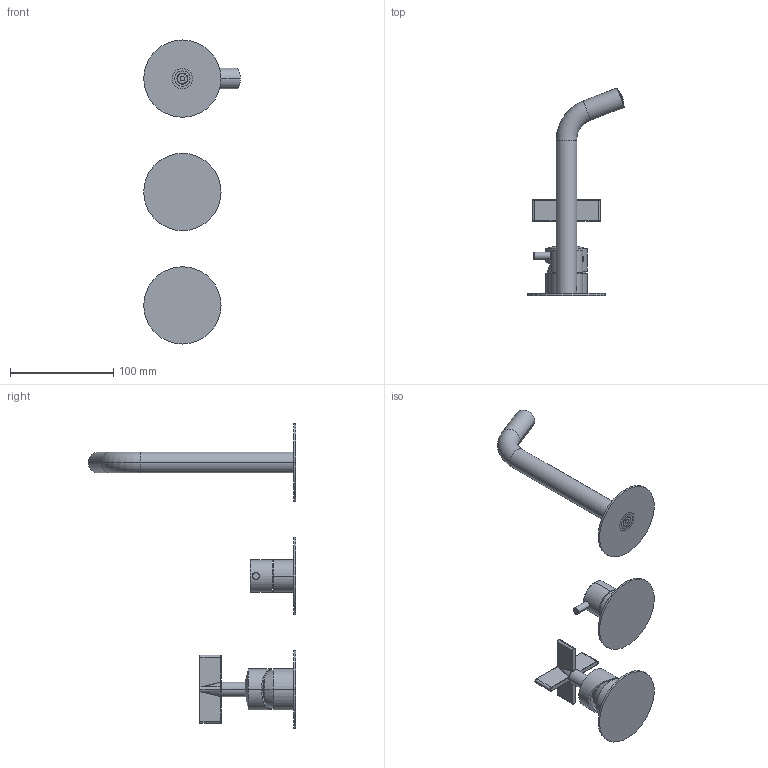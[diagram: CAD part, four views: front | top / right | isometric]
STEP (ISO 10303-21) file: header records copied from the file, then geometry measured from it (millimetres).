
FILE_DESCRIPTION((''),'2;1');
FILE_NAME('39558V3_SW0001','2024-12-05T10:15:05',('carloff'),(''),'CREO PARAMETRIC BY PTC INC, 2022014','CREO PARAMETRIC BY PTC INC, 2022014','');
FILE_SCHEMA(('CONFIG_CONTROL_DESIGN'));
Length unit declared in the file: millimetre
Products named in the file (1): 39558V3_SW0001
Bounding box: 93.65 x 201.34 x 295 mm (x, y, z)
Volume: 166990.8 mm3; surface area: 89351.4 mm2
Topology: 4 solids, 4 shells, 2044 faces, 5912 edges, 3881 vertices
Faces by surface type: plane 1431, cylinder 241, torus 162, bspline 132, cone 65, sphere 10, extrusion 3
Entity records: 95023 total; most frequent: CARTESIAN_POINT 45474, ORIENTED_EDGE 11796, DIRECTION 8012, EDGE_CURVE 5898, VERTEX_POINT 3881, AXIS2_PLACEMENT_3D 2831, B_SPLINE_CURVE_WITH_KNOTS 2632, EDGE_LOOP 2391
